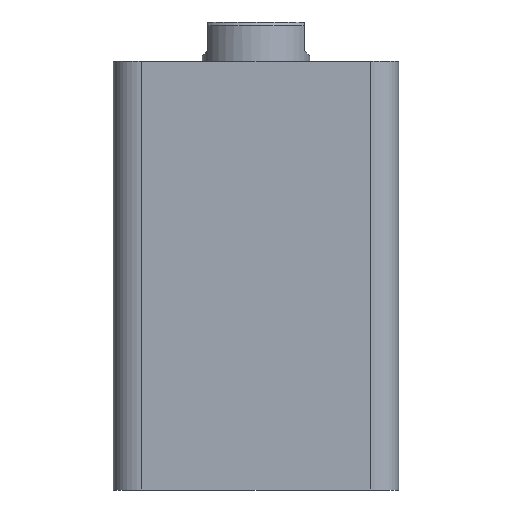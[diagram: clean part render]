
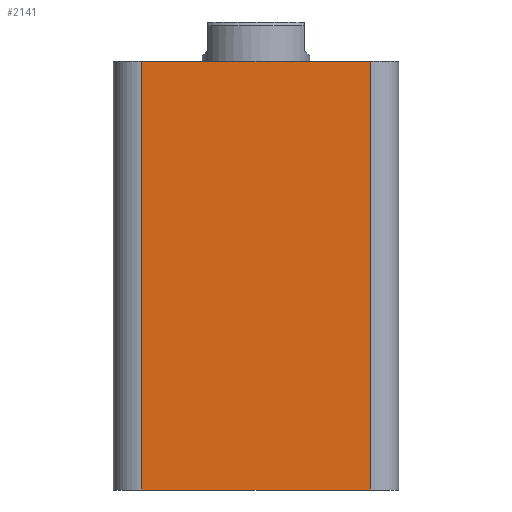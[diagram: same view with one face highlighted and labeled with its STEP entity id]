
A CAD part, front view. The second image highlights one B-rep face of the part: STEP entity #2141.
In plain terms, the highlighted planar face has unit normal (0, -1, 0).
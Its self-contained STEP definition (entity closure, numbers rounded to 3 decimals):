
#12 = CARTESIAN_POINT ( 'NONE',  ( -40., -40., 120. ) ) ;
#102 = DIRECTION ( 'NONE',  ( 0., 1., 0. ) ) ;
#106 = DIRECTION ( 'NONE',  ( 0., 0., 1. ) ) ;
#108 = PLANE ( 'NONE',  #1724 ) ;
#402 = ORIENTED_EDGE ( 'NONE', *, *, #714, .F. ) ;
#404 = ORIENTED_EDGE ( 'NONE', *, *, #713, .T. ) ;
#408 = ORIENTED_EDGE ( 'NONE', *, *, #712, .T. ) ;
#410 = ORIENTED_EDGE ( 'NONE', *, *, #711, .T. ) ;
#517 = VECTOR ( 'NONE', #966, 1000. ) ;
#519 = VECTOR ( 'NONE', #969, 1000. ) ;
#520 = LINE ( 'NONE', #968, #517 ) ;
#522 = VECTOR ( 'NONE', #972, 1000. ) ;
#523 = LINE ( 'NONE', #970, #519 ) ;
#524 = VECTOR ( 'NONE', #976, 1000. ) ;
#526 = LINE ( 'NONE', #927, #522 ) ;
#527 = LINE ( 'NONE', #921, #524 ) ;
#711 = EDGE_CURVE ( 'NONE', #1341, #1416, #527, .T. ) ;
#712 = EDGE_CURVE ( 'NONE', #1351, #1341, #526, .T. ) ;
#713 = EDGE_CURVE ( 'NONE', #1334, #1351, #523, .T. ) ;
#714 = EDGE_CURVE ( 'NONE', #1334, #1416, #520, .T. ) ;
#921 = CARTESIAN_POINT ( 'NONE',  ( 32., -40., 120. ) ) ;
#927 = CARTESIAN_POINT ( 'NONE',  ( -40., -40., 0. ) ) ;
#966 = DIRECTION ( 'NONE',  ( 1., 0., 0. ) ) ;
#968 = CARTESIAN_POINT ( 'NONE',  ( -40., -40., 120. ) ) ;
#969 = DIRECTION ( 'NONE',  ( 0., 0., -1. ) ) ;
#970 = CARTESIAN_POINT ( 'NONE',  ( -32., -40., 120. ) ) ;
#972 = DIRECTION ( 'NONE',  ( 1., 0., 0. ) ) ;
#976 = DIRECTION ( 'NONE',  ( 0., 0., 1. ) ) ;
#1245 = EDGE_LOOP ( 'NONE', ( #402, #404, #408, #410 ) ) ;
#1334 = VERTEX_POINT ( 'NONE', #2407 ) ;
#1341 = VERTEX_POINT ( 'NONE', #2420 ) ;
#1351 = VERTEX_POINT ( 'NONE', #2404 ) ;
#1416 = VERTEX_POINT ( 'NONE', #2382 ) ;
#1724 = AXIS2_PLACEMENT_3D ( 'NONE', #12, #102, #106 ) ;
#2141 = ADVANCED_FACE ( 'NONE', ( #2524 ), #108, .F. ) ;
#2382 = CARTESIAN_POINT ( 'NONE',  ( 32., -40., 120. ) ) ;
#2404 = CARTESIAN_POINT ( 'NONE',  ( -32., -40., 0. ) ) ;
#2407 = CARTESIAN_POINT ( 'NONE',  ( -32., -40., 120. ) ) ;
#2420 = CARTESIAN_POINT ( 'NONE',  ( 32., -40., 0. ) ) ;
#2524 = FACE_OUTER_BOUND ( 'NONE', #1245, .T. ) ;
